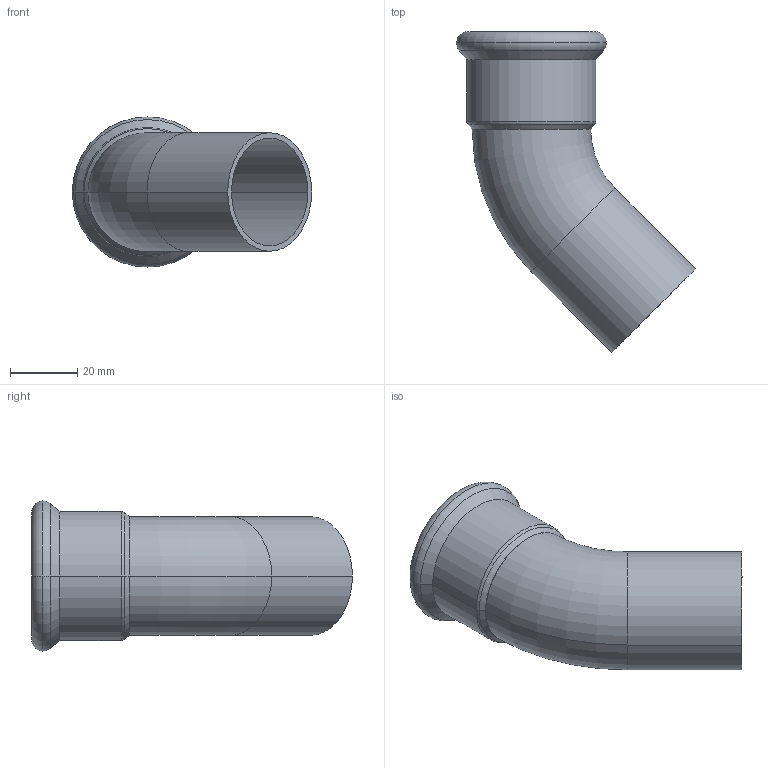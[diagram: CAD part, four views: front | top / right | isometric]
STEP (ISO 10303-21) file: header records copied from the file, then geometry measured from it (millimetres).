
FILE_DESCRIPTION(('OneSpaceDesigner STEP Export'),'2;1');
FILE_NAME('R2712 35x35.stp','2010-06-09T15:23:08',(''),(''),'OneSpace Designer STEP processor for AP214 (Solid Model)','OneSpace Modeling 15.00A 14-Mar-2007 (C) CoCreate Software GmbH','');
FILE_SCHEMA(('AUTOMOTIVE_DESIGN { 1 0 10303 214 1 1 1 1 }'));
Length unit declared in the file: millimetre
Products named in the file (2): R2712_35x35
Assembly tree (1 placements, depth 2):
  R2712_35x35
    R2712_35x35
Bounding box: 70.99 x 95.22 x 44.55 mm (x, y, z)
Volume: 19371.6 mm3; surface area: 22929.8 mm2
Topology: 1 solids, 1 shells, 68 faces, 164 edges, 103 vertices
Faces by surface type: plane 31, cylinder 23, torus 10, cone 4
Entity records: 1778 total; most frequent: ORIENTED_EDGE 328, CARTESIAN_POINT 283, DIRECTION 267, EDGE_CURVE 164, VERTEX_POINT 103, VECTOR 93, LINE 93, AXIS2_PLACEMENT_3D 87
